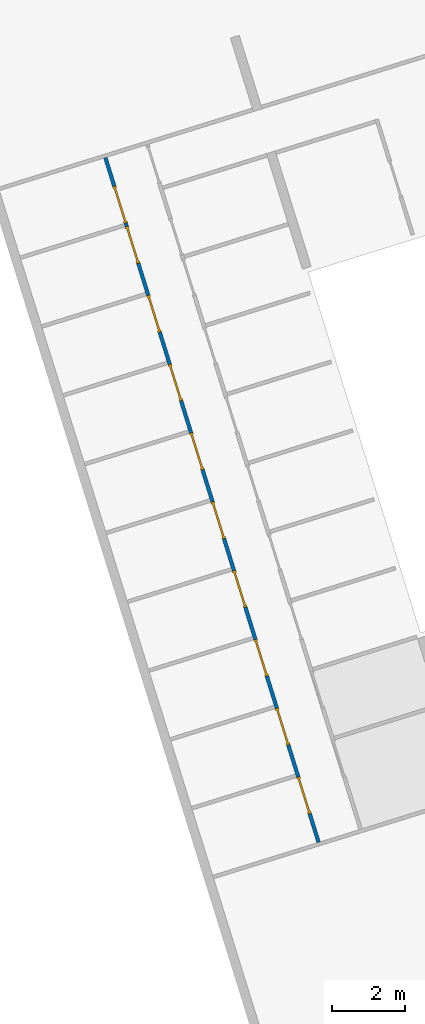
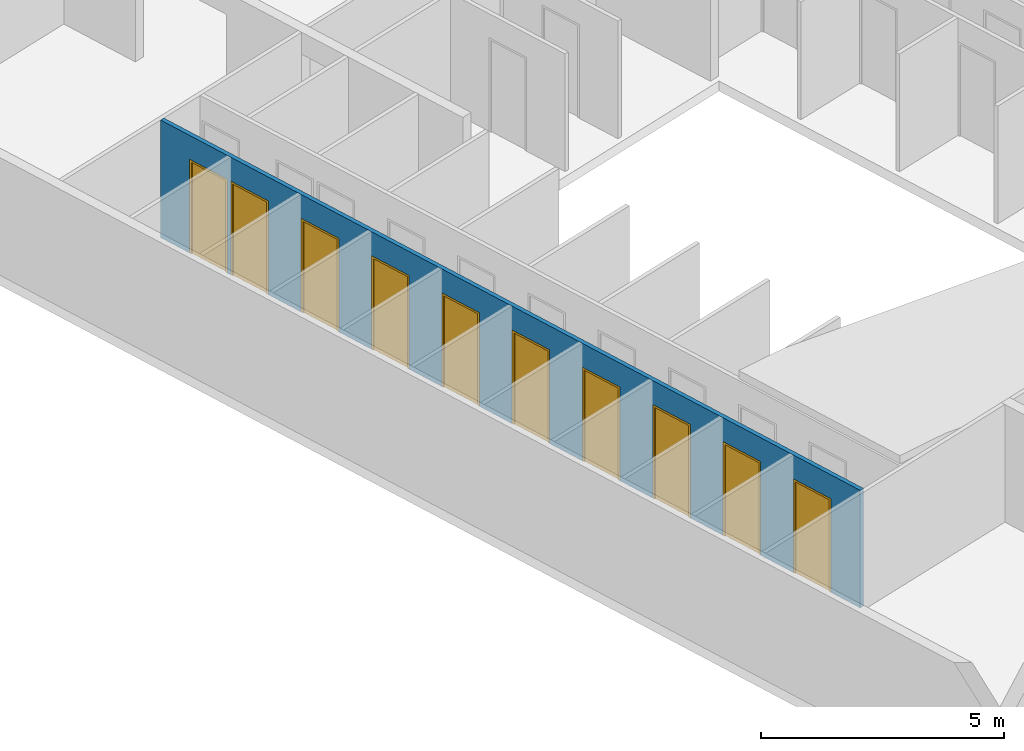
# One storey, part 4 of 7: 10 doors, 1 wall, 10 openings.
"""IFC4 building model written with IfcOpenShell, lengths in metres."""

from ifc_helpers import new_model, entity, si_unit, converted_unit, direction, frame, origin, place, context, subcontext, project, spatial, indexed_curve, outline, extrude, polygons, source, transform, mapped, material, constituent, constituent_set, type_object, type_shapes, element, fill, save


model = new_model("IFC4")

# Units and contexts
model_context = context("Model", 3, precision=1e-05, world=origin(), true_north=direction((6.12323399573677e-17, 1.0)))
body_context = subcontext(model_context, "Body", "Model", "MODEL_VIEW")
ifc_project = project(units=[si_unit("LENGTHUNIT", "METRE"), si_unit("AREAUNIT", "SQUARE_METRE"), si_unit("VOLUMEUNIT", "CUBIC_METRE"), converted_unit("PLANEANGLEUNIT", "DEGREE", entity("IfcPlaneAngleMeasure", 0.0174532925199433), si_unit("PLANEANGLEUNIT", "RADIAN"), dimensions=[0, 0, 0, 0, 0, 0, 0])], contexts=[model_context])

# Site, building, storey
site_placement = place(None, frame((13.1347999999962, 11.9886000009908, 0.0), z_axis=(0.0, 0.0, 1.0), x_axis=(0.954770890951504, 0.297342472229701, 0.0)))
site = spatial("IfcSite", under=ifc_project, at=site_placement, Name="Schiehaven", CompositionType="ELEMENT")
building_placement = place(site_placement, origin())
building = spatial("IfcBuilding", under=site, at=building_placement, Name="VORM huis", CompositionType="ELEMENT")
storey_placement = place(building_placement, frame((0.0, 0.0, -3.2)))
storey = spatial("IfcBuildingStorey", under=building, at=storey_placement, Name="-1 kelder", CompositionType="ELEMENT", Elevation=-3.2)

# Wall, openings, doors
ifc_material_1 = material(Name="ntb_ntb_ntb", Category="Miscellaneous")
wall_type = type_object("IfcWallType", Name="Basic Wall:22_WA_afbouw_binnenwand 100mm_gen", PredefinedType="STANDARD")
wall_placement = place(storey_placement, frame((8.15000000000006, 26.825, 0.0), z_axis=(0.0, 0.0, 1.0), x_axis=(0.0, -1.0, 0.0)))
wall = element("IfcWall", 1, at=wall_placement, inside=storey, type_object=wall_type, material=ifc_material_1, Name="Binnenwand", ObjectType="Wand", PredefinedType="NOTDEFINED", context=body_context, shape_type="Tessellation", body=[
    polygons([(16.7699999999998, -0.049999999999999, 0.0), (17.5849999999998, -0.0499999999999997, 0.0), (17.6849999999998, -0.0499999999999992, 0.0), (17.6849999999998, -0.0499999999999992, 2.34999999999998), (18.7349999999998, -0.0499999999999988, 2.34999999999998), (18.7349999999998, -0.0499999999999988, 0.0), (19.5499999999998, -0.0499999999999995, 0.0), (19.5499999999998, -0.0499999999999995, 2.95), (17.6849999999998, -0.0499999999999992, 2.95), (17.5849999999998, -0.0499999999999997, 2.95), (15.7199999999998, -0.0499999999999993, 2.95), (15.6199999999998, -0.0499999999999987, 2.95), (13.7549999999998, -0.0499999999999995, 2.95), (13.6549999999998, -0.0499999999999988, 2.95), (11.7899999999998, -0.0499999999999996, 2.95), (11.6899999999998, -0.049999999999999, 2.95), (9.82499999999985, -0.0499999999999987, 2.95), (9.72499999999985, -0.0499999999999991, 2.95), (7.85999999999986, -0.0499999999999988, 2.95), (7.75999999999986, -0.0499999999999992, 2.95), (5.89499999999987, -0.0499999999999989, 2.95), (5.79499999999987, -0.0499999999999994, 2.95), (3.92999999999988, -0.049999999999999, 2.95), (3.82999999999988, -0.0499999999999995, 2.95), (1.96499999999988, -0.0499999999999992, 2.95), (1.86499999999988, -0.0499999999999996, 2.95), (0.0, -0.0499999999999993, 2.95), (0.0, -0.0499999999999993, 0.0), (0.814999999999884, -0.0499999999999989, 0.0), (0.814999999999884, -0.0499999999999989, 2.34999999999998), (1.86499999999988, -0.0499999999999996, 2.34999999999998), (1.86499999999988, -0.0499999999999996, 0.0), (1.96499999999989, -0.0499999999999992, 0.0), (1.96499999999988, -0.0499999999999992, 2.34999999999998), (3.01499999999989, -0.0499999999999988, 2.34999999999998), (3.01499999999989, -0.0499999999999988, 0.0), (3.82999999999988, -0.0499999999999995, 0.0), (3.92999999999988, -0.049999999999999, 0.0), (3.92999999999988, -0.049999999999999, 2.34999999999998), (4.97999999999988, -0.0499999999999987, 2.34999999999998), (4.97999999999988, -0.0499999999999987, 0.0), (5.79499999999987, -0.0499999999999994, 0.0), (5.89499999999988, -0.0499999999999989, 0.0), (5.89499999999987, -0.0499999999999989, 2.34999999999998), (6.94499999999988, -0.0499999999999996, 2.34999999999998), (6.94499999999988, -0.0499999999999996, 0.0), (7.75999999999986, -0.0499999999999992, 0.0), (7.85999999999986, -0.0499999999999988, 0.0), (7.85999999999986, -0.0499999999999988, 2.34999999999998), (8.90999999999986, -0.0499999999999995, 2.34999999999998), (8.90999999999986, -0.0499999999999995, 0.0), (9.72499999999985, -0.0499999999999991, 0.0), (9.82499999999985, -0.0499999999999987, 0.0), (9.82499999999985, -0.0499999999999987, 2.34999999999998), (10.8749999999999, -0.0499999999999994, 2.34999999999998), (10.8749999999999, -0.0499999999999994, 0.0), (11.6899999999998, -0.049999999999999, 0.0), (11.7899999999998, -0.0499999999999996, 0.0), (11.7899999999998, -0.0499999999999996, 2.34999999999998), (12.8399999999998, -0.0499999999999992, 2.34999999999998), (12.8399999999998, -0.0499999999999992, 0.0), (13.6549999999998, -0.0499999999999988, 0.0), (13.7549999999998, -0.0499999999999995, 0.0), (13.7549999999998, -0.0499999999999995, 2.34999999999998), (14.8049999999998, -0.0499999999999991, 2.34999999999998), (14.8049999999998, -0.0499999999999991, 0.0), (15.6199999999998, -0.0499999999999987, 0.0), (15.7199999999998, -0.0499999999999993, 0.0), (15.7199999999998, -0.0499999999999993, 2.34999999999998), (16.7699999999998, -0.049999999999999, 2.34999999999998), (17.6849999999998, 0.0500000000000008, 2.34999999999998), (17.6849999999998, 0.0500000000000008, 0.0), (16.7699999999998, 0.050000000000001, 0.0), (16.7699999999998, 0.050000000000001, 2.34999999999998), (15.7199999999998, 0.0500000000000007, 2.34999999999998), (15.7199999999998, 0.0500000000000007, 0.0), (14.8049999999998, 0.0500000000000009, 0.0), (14.8049999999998, 0.0500000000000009, 2.34999999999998), (13.7549999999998, 0.0500000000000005, 2.34999999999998), (13.7549999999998, 0.0500000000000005, 0.0), (12.8399999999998, 0.0500000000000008, 0.0), (12.8399999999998, 0.0500000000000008, 2.34999999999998), (11.7899999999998, 0.0500000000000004, 2.34999999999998), (11.7899999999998, 0.0500000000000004, 0.0), (10.8749999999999, 0.0500000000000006, 0.0), (10.8749999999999, 0.0500000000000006, 2.34999999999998), (9.82499999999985, 0.0500000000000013, 2.34999999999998), (9.82499999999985, 0.0500000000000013, 0.0), (8.90999999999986, 0.0500000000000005, 0.0), (8.90999999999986, 0.0500000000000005, 2.34999999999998), (7.85999999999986, 0.0500000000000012, 2.34999999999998), (7.85999999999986, 0.0500000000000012, 0.0), (6.94499999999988, 0.0500000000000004, 0.0), (6.94499999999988, 0.0500000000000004, 2.34999999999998), (5.89499999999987, 0.0500000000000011, 2.34999999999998), (5.89499999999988, 0.0500000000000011, 0.0), (4.97999999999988, 0.0500000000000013, 0.0), (4.97999999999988, 0.0500000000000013, 2.34999999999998), (3.92999999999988, 0.050000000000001, 2.34999999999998), (3.92999999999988, 0.050000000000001, 0.0), (3.01499999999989, 0.0500000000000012, 0.0), (3.01499999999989, 0.0500000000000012, 2.34999999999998), (1.96499999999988, 0.0500000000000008, 2.34999999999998), (1.96499999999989, 0.0500000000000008, 0.0), (1.86499999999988, 0.0500000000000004, 0.0), (1.86499999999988, 0.0500000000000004, 2.34999999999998), (0.814999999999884, 0.05, 2.34999999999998), (0.814999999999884, 0.05, 0.0), (0.0, 0.0500000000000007, 0.0), (0.0, 0.0500000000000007, 2.95), (19.5499999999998, 0.0500000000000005, 2.95), (19.5499999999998, 0.0500000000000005, 0.0), (18.7349999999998, 0.0500000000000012, 0.0), (18.7349999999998, 0.0500000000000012, 2.34999999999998)], [[[1, 2, 3, 4, 5, 6, 7, 8, 9, 10, 11, 12, 13, 14, 15, 16, 17, 18, 19, 20, 21, 22, 23, 24, 25, 26, 27, 28, 29, 30, 31, 32, 33, 34, 35, 36, 37, 38, 39, 40, 41, 42, 43, 44, 45, 46, 47, 48, 49, 50, 51, 52, 53, 54, 55, 56, 57, 58, 59, 60, 61, 62, 63, 64, 65, 66, 67, 68, 69, 70]], [[71, 72, 73, 74, 75, 76, 77, 78, 79, 80, 81, 82, 83, 84, 85, 86, 87, 88, 89, 90, 91, 92, 93, 94, 95, 96, 97, 98, 99, 100, 101, 102, 103, 104, 105, 106, 107, 108, 109, 110, 111, 112, 113, 114]], [[109, 108, 29, 28]], [[27, 26, 25, 24, 23, 22, 21, 20, 19, 18, 17, 16, 15, 14, 13, 12, 11, 10, 9, 8, 111, 110]], [[66, 65, 78, 77]], [[64, 63, 80, 79]], [[65, 64, 79, 78]], [[61, 60, 82, 81]], [[59, 58, 84, 83]], [[60, 59, 83, 82]], [[56, 55, 86, 85]], [[54, 53, 88, 87]], [[55, 54, 87, 86]], [[51, 50, 90, 89]], [[49, 48, 92, 91]], [[50, 49, 91, 90]], [[46, 45, 94, 93]], [[44, 43, 96, 95]], [[45, 44, 95, 94]], [[41, 40, 98, 97]], [[39, 38, 100, 99]], [[40, 39, 99, 98]], [[36, 35, 102, 101]], [[34, 33, 104, 103]], [[35, 34, 103, 102]], [[32, 31, 106, 105]], [[30, 29, 108, 107]], [[31, 30, 107, 106]], [[28, 27, 110, 109]], [[8, 7, 112, 111]], [[1, 70, 74, 73]], [[69, 68, 76, 75]], [[70, 69, 75, 74]], [[6, 5, 114, 113]], [[4, 3, 72, 71]], [[5, 4, 71, 114]], [[105, 104, 33, 32]], [[101, 100, 38, 37, 36]], [[97, 96, 43, 42, 41]], [[93, 92, 48, 47, 46]], [[89, 88, 53, 52, 51]], [[85, 84, 58, 57, 56]], [[81, 80, 63, 62, 61]], [[77, 76, 68, 67, 66]], [[73, 72, 3, 2, 1]], [[113, 112, 7, 6]]], closed=True),
])
opening_1_placement = place(wall_placement, frame((0.81499999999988, -0.0500000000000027, 0.0)))
opening_1 = element("IfcOpeningElement", 2, at=opening_1_placement, cuts=wall, Name="Binnendeur", PredefinedType="OPENING", context=body_context, shape_type="SweptSolid", body=[
    extrude(outline(indexed_curve([(2.34999999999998, 1.05), (0.0, 1.05), (0.0, 0.0), (2.34999999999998, 0.0), (2.34999999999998, 1.05)], self_intersect=False)), frame((0.0, 0.0, 0.0), z_axis=(0.0, 1.0, 0.0), x_axis=(0.0, 0.0, 1.0)), (0.0, 0.0, 1.0), 0.1),
])
opening_2_placement = place(wall_placement, frame((1.96499999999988, -0.050000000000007, 0.0)))
opening_2 = element("IfcOpeningElement", 3, at=opening_2_placement, cuts=wall, Name="Binnendeur", PredefinedType="OPENING", context=body_context, shape_type="SweptSolid", body=[
    extrude(outline(indexed_curve([(2.34999999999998, 1.05), (0.0, 1.05), (0.0, 0.0), (2.34999999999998, 0.0), (2.34999999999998, 1.05)], self_intersect=False)), frame((0.0, 0.0, 0.0), z_axis=(0.0, 1.0, 0.0), x_axis=(0.0, 0.0, 1.0)), (0.0, 0.0, 1.0), 0.1),
])
opening_3_placement = place(wall_placement, frame((3.92999999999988, -0.0500000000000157, 0.0)))
opening_3 = element("IfcOpeningElement", 4, at=opening_3_placement, cuts=wall, Name="Binnendeur", PredefinedType="OPENING", context=body_context, shape_type="SweptSolid", body=[
    extrude(outline(indexed_curve([(2.34999999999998, 1.05), (0.0, 1.05), (0.0, 0.0), (2.34999999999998, 0.0), (2.34999999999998, 1.05)], self_intersect=False)), frame((0.0, 0.0, 0.0), z_axis=(0.0, 1.0, 0.0), x_axis=(0.0, 0.0, 1.0)), (0.0, 0.0, 1.0), 0.1),
])
opening_4_placement = place(wall_placement, frame((5.89499999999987, -0.0500000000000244, 0.0)))
opening_4 = element("IfcOpeningElement", 5, at=opening_4_placement, cuts=wall, Name="Binnendeur", PredefinedType="OPENING", context=body_context, shape_type="SweptSolid", body=[
    extrude(outline(indexed_curve([(2.34999999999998, 1.05), (0.0, 1.05), (0.0, 0.0), (2.34999999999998, 0.0), (2.34999999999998, 1.05)], self_intersect=False)), frame((0.0, 0.0, 0.0), z_axis=(0.0, 1.0, 0.0), x_axis=(0.0, 0.0, 1.0)), (0.0, 0.0, 1.0), 0.1),
])
opening_5_placement = place(wall_placement, frame((7.85999999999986, -0.050000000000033, 0.0)))
opening_5 = element("IfcOpeningElement", 6, at=opening_5_placement, cuts=wall, Name="Binnendeur", PredefinedType="OPENING", context=body_context, shape_type="SweptSolid", body=[
    extrude(outline(indexed_curve([(2.34999999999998, 1.05), (0.0, 1.05), (0.0, 1.08286712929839e-15), (2.34999999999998, 1.08286712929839e-15), (2.34999999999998, 1.05)], self_intersect=False)), frame((0.0, 0.0, 0.0), z_axis=(0.0, 1.0, 0.0), x_axis=(0.0, 0.0, 1.0)), (0.0, 0.0, 1.0), 0.1),
])
opening_6_placement = place(wall_placement, frame((9.82499999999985, -0.0500000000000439, 0.0)))
opening_6 = element("IfcOpeningElement", 7, at=opening_6_placement, cuts=wall, Name="Binnendeur", PredefinedType="OPENING", context=body_context, shape_type="SweptSolid", body=[
    extrude(outline(indexed_curve([(2.34999999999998, 1.05), (0.0, 1.05), (0.0, 2.16573425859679e-15), (2.34999999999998, 2.16573425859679e-15), (2.34999999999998, 1.05)], self_intersect=False)), frame((0.0, 0.0, 0.0), z_axis=(0.0, 1.0, 0.0), x_axis=(0.0, 0.0, 1.0)), (0.0, 0.0, 1.0), 0.1),
])
opening_7_placement = place(wall_placement, frame((11.7899999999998, -0.0500000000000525, 0.0)))
opening_7 = element("IfcOpeningElement", 8, at=opening_7_placement, cuts=wall, Name="Binnendeur", PredefinedType="OPENING", context=body_context, shape_type="SweptSolid", body=[
    extrude(outline(indexed_curve([(2.34999999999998, 1.05), (0.0, 1.05), (0.0, 2.16573425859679e-15), (2.34999999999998, 2.16573425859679e-15), (2.34999999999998, 1.05)], self_intersect=False)), frame((0.0, 0.0, 0.0), z_axis=(0.0, 1.0, 0.0), x_axis=(0.0, 0.0, 1.0)), (0.0, 0.0, 1.0), 0.1),
])
opening_8_placement = place(wall_placement, frame((13.7549999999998, -0.0500000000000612, 0.0)))
opening_8 = element("IfcOpeningElement", 9, at=opening_8_placement, cuts=wall, Name="Binnendeur", PredefinedType="OPENING", context=body_context, shape_type="SweptSolid", body=[
    extrude(outline(indexed_curve([(2.34999999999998, 1.05), (0.0, 1.05), (0.0, 2.16573425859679e-15), (2.34999999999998, 2.16573425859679e-15), (2.34999999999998, 1.05)], self_intersect=False)), frame((0.0, 0.0, 0.0), z_axis=(0.0, 1.0, 0.0), x_axis=(0.0, 0.0, 1.0)), (0.0, 0.0, 1.0), 0.1),
])
opening_9_placement = place(wall_placement, frame((15.7199999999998, -0.0500000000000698, 0.0)))
opening_9 = element("IfcOpeningElement", 10, at=opening_9_placement, cuts=wall, Name="Binnendeur", PredefinedType="OPENING", context=body_context, shape_type="SweptSolid", body=[
    extrude(outline(indexed_curve([(2.34999999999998, 1.05), (0.0, 1.05), (0.0, 2.16573425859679e-15), (2.34999999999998, 2.16573425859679e-15), (2.34999999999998, 1.05)], self_intersect=False)), frame((0.0, 0.0, 0.0), z_axis=(0.0, 1.0, 0.0), x_axis=(0.0, 0.0, 1.0)), (0.0, 0.0, 1.0), 0.1),
])
opening_10_placement = place(wall_placement, frame((17.6849999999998, -0.0500000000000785, 0.0)))
opening_10 = element("IfcOpeningElement", 11, at=opening_10_placement, cuts=wall, Name="Binnendeur", PredefinedType="OPENING", context=body_context, shape_type="SweptSolid", body=[
    extrude(outline(indexed_curve([(2.34999999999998, 1.05), (0.0, 1.05), (0.0, 0.0), (2.34999999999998, 0.0), (2.34999999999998, 1.05)], self_intersect=False)), frame((0.0, 0.0, 0.0), z_axis=(0.0, 1.0, 0.0), x_axis=(0.0, 0.0, 1.0)), (0.0, 0.0, 1.0), 0.1),
])
ifc_material_2 = material(Name="PD_a_binnenwandopeningen", Category="Miscellaneous")
ifc_constituent_1 = constituent(ifc_material_2, Name="PD_a_binnenwandopeningen", Category="Miscellaneous")
ifc_material_3 = material(Name="metaal_aluminium_ntb", Category="Miscellaneous")
ifc_constituent_2 = constituent(ifc_material_3, Name="metaal_aluminium_ntb", Category="Miscellaneous")
ifc_constituent_set_1 = constituent_set(constituents=[ifc_constituent_1, ifc_constituent_2])
door_type = type_object("IfcDoorType", Name="32_DO_binnendeur enkel:binnendeur", OperationType="REVOLVING", PredefinedType="DOOR")
shared_shape = source(origin(), body_context, "Body", "SweptSolid", [
    extrude(outline(indexed_curve([(-1.16249999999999, -0.525000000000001), (1.18749999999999, -0.525), (1.18749999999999, 0.525), (-1.16249999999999, 0.525), (-1.16249999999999, 0.475), (1.13749999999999, 0.475), (1.13749999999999, -0.475), (-1.16249999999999, -0.475), (-1.16249999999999, -0.525000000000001)], self_intersect=False)), frame((0.525000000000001, 0.0, 1.16249999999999), z_axis=(0.0, 1.0, 0.0), x_axis=(0.0, 0.0, 1.0)), (0.0, 0.0, 1.0), 0.1),
    extrude(outline(indexed_curve([(-0.025, -0.475), (0.025, -0.475), (0.025, 0.475), (-0.025, 0.475), (-0.025, -0.475)], self_intersect=False)), frame((0.525000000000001, 0.0499999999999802, 0.0), z_axis=(0.0, 0.0, 1.0), x_axis=(0.0, 1.0, 0.0)), (0.0, 0.0, 1.0), 2.29999999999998),
])
type_shapes(door_type, [shared_shape])
door_1_placement = place(opening_1_placement, origin())
door_1 = element("IfcDoor", 12, at=door_1_placement, inside=storey, type_object=door_type, material=ifc_constituent_set_1, Name="Binnendeur", ObjectType="Deur", OperationType="REVOLVING", OverallHeight=2.34999999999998, OverallWidth=1.05, PredefinedType="DOOR", context=body_context, shape_type="MappedRepresentation", body=[
    mapped(shared_shape, transform((0.0, 0.0, 0.0), scale=1.0)),
])
fill(opening_1, door_1)
ifc_constituent_3 = constituent(ifc_material_2, Name="PD_a_binnenwandopeningen", Category="Miscellaneous")
ifc_constituent_4 = constituent(ifc_material_3, Name="metaal_aluminium_ntb", Category="Miscellaneous")
ifc_constituent_set_2 = constituent_set(constituents=[ifc_constituent_3, ifc_constituent_4])
door_2_placement = place(opening_2_placement, origin())
door_2 = element("IfcDoor", 13, at=door_2_placement, inside=storey, type_object=door_type, material=ifc_constituent_set_2, Name="Binnendeur", ObjectType="Deur", OperationType="REVOLVING", OverallHeight=2.34999999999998, OverallWidth=1.05, PredefinedType="DOOR", context=body_context, shape_type="MappedRepresentation", body=[
    mapped(shared_shape, transform((0.0, 0.0, 0.0), scale=1.0)),
])
fill(opening_2, door_2)
ifc_constituent_5 = constituent(ifc_material_2, Name="PD_a_binnenwandopeningen", Category="Miscellaneous")
ifc_constituent_6 = constituent(ifc_material_3, Name="metaal_aluminium_ntb", Category="Miscellaneous")
ifc_constituent_set_3 = constituent_set(constituents=[ifc_constituent_5, ifc_constituent_6])
door_3_placement = place(opening_3_placement, origin())
door_3 = element("IfcDoor", 14, at=door_3_placement, inside=storey, type_object=door_type, material=ifc_constituent_set_3, Name="Binnendeur", ObjectType="Deur", OperationType="REVOLVING", OverallHeight=2.34999999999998, OverallWidth=1.05, PredefinedType="DOOR", context=body_context, shape_type="MappedRepresentation", body=[
    mapped(shared_shape, transform((0.0, 0.0, 0.0), scale=1.0)),
])
fill(opening_3, door_3)
ifc_constituent_7 = constituent(ifc_material_2, Name="PD_a_binnenwandopeningen", Category="Miscellaneous")
ifc_constituent_8 = constituent(ifc_material_3, Name="metaal_aluminium_ntb", Category="Miscellaneous")
ifc_constituent_set_4 = constituent_set(constituents=[ifc_constituent_7, ifc_constituent_8])
door_4_placement = place(opening_4_placement, origin())
door_4 = element("IfcDoor", 15, at=door_4_placement, inside=storey, type_object=door_type, material=ifc_constituent_set_4, Name="Binnendeur", ObjectType="Deur", OperationType="REVOLVING", OverallHeight=2.34999999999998, OverallWidth=1.05, PredefinedType="DOOR", context=body_context, shape_type="MappedRepresentation", body=[
    mapped(shared_shape, transform((0.0, 0.0, 0.0), scale=1.0)),
])
fill(opening_4, door_4)
ifc_constituent_9 = constituent(ifc_material_2, Name="PD_a_binnenwandopeningen", Category="Miscellaneous")
ifc_constituent_10 = constituent(ifc_material_3, Name="metaal_aluminium_ntb", Category="Miscellaneous")
ifc_constituent_set_5 = constituent_set(constituents=[ifc_constituent_9, ifc_constituent_10])
door_5_placement = place(opening_5_placement, origin())
door_5 = element("IfcDoor", 16, at=door_5_placement, inside=storey, type_object=door_type, material=ifc_constituent_set_5, Name="Binnendeur", ObjectType="Deur", OperationType="REVOLVING", OverallHeight=2.34999999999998, OverallWidth=1.05, PredefinedType="DOOR", context=body_context, shape_type="MappedRepresentation", body=[
    mapped(shared_shape, transform((0.0, 0.0, 0.0), scale=1.0)),
])
fill(opening_5, door_5)
ifc_constituent_11 = constituent(ifc_material_2, Name="PD_a_binnenwandopeningen", Category="Miscellaneous")
ifc_constituent_12 = constituent(ifc_material_3, Name="metaal_aluminium_ntb", Category="Miscellaneous")
ifc_constituent_set_6 = constituent_set(constituents=[ifc_constituent_11, ifc_constituent_12])
door_6_placement = place(opening_6_placement, origin())
door_6 = element("IfcDoor", 17, at=door_6_placement, inside=storey, type_object=door_type, material=ifc_constituent_set_6, Name="Binnendeur", ObjectType="Deur", OperationType="REVOLVING", OverallHeight=2.34999999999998, OverallWidth=1.05, PredefinedType="DOOR", context=body_context, shape_type="MappedRepresentation", body=[
    mapped(shared_shape, transform((0.0, 0.0, 0.0), scale=1.0)),
])
fill(opening_6, door_6)
ifc_constituent_13 = constituent(ifc_material_2, Name="PD_a_binnenwandopeningen", Category="Miscellaneous")
ifc_constituent_14 = constituent(ifc_material_3, Name="metaal_aluminium_ntb", Category="Miscellaneous")
ifc_constituent_set_7 = constituent_set(constituents=[ifc_constituent_13, ifc_constituent_14])
door_7_placement = place(opening_7_placement, origin())
door_7 = element("IfcDoor", 18, at=door_7_placement, inside=storey, type_object=door_type, material=ifc_constituent_set_7, Name="Binnendeur", ObjectType="Deur", OperationType="REVOLVING", OverallHeight=2.34999999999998, OverallWidth=1.05, PredefinedType="DOOR", context=body_context, shape_type="MappedRepresentation", body=[
    mapped(shared_shape, transform((0.0, 0.0, 0.0), scale=1.0)),
])
fill(opening_7, door_7)
ifc_constituent_15 = constituent(ifc_material_2, Name="PD_a_binnenwandopeningen", Category="Miscellaneous")
ifc_constituent_16 = constituent(ifc_material_3, Name="metaal_aluminium_ntb", Category="Miscellaneous")
ifc_constituent_set_8 = constituent_set(constituents=[ifc_constituent_15, ifc_constituent_16])
door_8_placement = place(opening_8_placement, origin())
door_8 = element("IfcDoor", 19, at=door_8_placement, inside=storey, type_object=door_type, material=ifc_constituent_set_8, Name="Binnendeur", ObjectType="Deur", OperationType="REVOLVING", OverallHeight=2.34999999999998, OverallWidth=1.05, PredefinedType="DOOR", context=body_context, shape_type="MappedRepresentation", body=[
    mapped(shared_shape, transform((0.0, 0.0, 0.0), scale=1.0)),
])
fill(opening_8, door_8)
ifc_constituent_17 = constituent(ifc_material_2, Name="PD_a_binnenwandopeningen", Category="Miscellaneous")
ifc_constituent_18 = constituent(ifc_material_3, Name="metaal_aluminium_ntb", Category="Miscellaneous")
ifc_constituent_set_9 = constituent_set(constituents=[ifc_constituent_17, ifc_constituent_18])
door_9_placement = place(opening_9_placement, origin())
door_9 = element("IfcDoor", 20, at=door_9_placement, inside=storey, type_object=door_type, material=ifc_constituent_set_9, Name="Binnendeur", ObjectType="Deur", OperationType="REVOLVING", OverallHeight=2.34999999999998, OverallWidth=1.05, PredefinedType="DOOR", context=body_context, shape_type="MappedRepresentation", body=[
    mapped(shared_shape, transform((0.0, 0.0, 0.0), scale=1.0)),
])
fill(opening_9, door_9)
ifc_constituent_19 = constituent(ifc_material_2, Name="PD_a_binnenwandopeningen", Category="Miscellaneous")
ifc_constituent_20 = constituent(ifc_material_3, Name="metaal_aluminium_ntb", Category="Miscellaneous")
ifc_constituent_set_10 = constituent_set(constituents=[ifc_constituent_19, ifc_constituent_20])
door_10_placement = place(opening_10_placement, origin())
door_10 = element("IfcDoor", 21, at=door_10_placement, inside=storey, type_object=door_type, material=ifc_constituent_set_10, Name="Binnendeur", ObjectType="Deur", OperationType="REVOLVING", OverallHeight=2.34999999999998, OverallWidth=1.05, PredefinedType="DOOR", context=body_context, shape_type="MappedRepresentation", body=[
    mapped(shared_shape, transform((0.0, 0.0, 0.0), scale=1.0)),
])
fill(opening_10, door_10)

save(model, "model.ifc")
